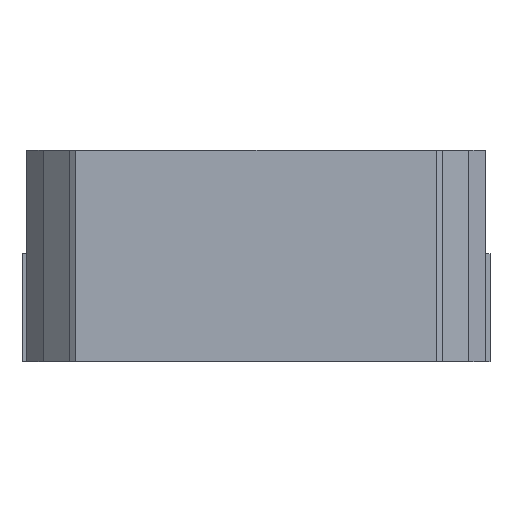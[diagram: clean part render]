
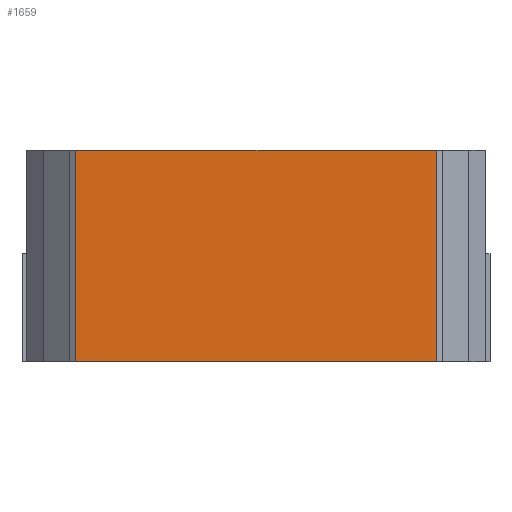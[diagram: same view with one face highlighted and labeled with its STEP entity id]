
A CAD part, front view. The second image highlights one B-rep face of the part: STEP entity #1659.
In plain terms, the highlighted planar face has unit normal (0, -1, 0).
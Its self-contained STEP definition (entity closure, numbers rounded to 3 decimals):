
#63 = PLANE('',#64);
#64 = AXIS2_PLACEMENT_3D('',#65,#66,#67);
#65 = CARTESIAN_POINT('',(-3.25,-3.25,3.));
#66 = DIRECTION('',(0.,0.,1.));
#67 = DIRECTION('',(1.,0.,0.));
#117 = PLANE('',#118);
#118 = AXIS2_PLACEMENT_3D('',#119,#120,#121);
#119 = CARTESIAN_POINT('',(-3.25,-3.25,0.));
#120 = DIRECTION('',(0.,0.,1.));
#121 = DIRECTION('',(1.,0.,0.));
#303 = VERTEX_POINT('',#304);
#304 = CARTESIAN_POINT('',(-2.55,-3.25,3.));
#317 = PLANE('',#318);
#318 = AXIS2_PLACEMENT_3D('',#319,#320,#321);
#319 = CARTESIAN_POINT('',(-2.637,-3.187,-1.));
#320 = DIRECTION('',(0.588,0.809,0.));
#321 = DIRECTION('',(0.809,-0.588,0.));
#328 = EDGE_CURVE('',#303,#329,#331,.T.);
#329 = VERTEX_POINT('',#330);
#330 = CARTESIAN_POINT('',(2.55,-3.25,3.));
#331 = SURFACE_CURVE('',#332,(#336,#343),.PCURVE_S1.);
#332 = LINE('',#333,#334);
#333 = CARTESIAN_POINT('',(-3.25,-3.25,3.));
#334 = VECTOR('',#335,1.);
#335 = DIRECTION('',(1.,0.,0.));
#336 = PCURVE('',#63,#337);
#337 = DEFINITIONAL_REPRESENTATION('',(#338),#342);
#338 = LINE('',#339,#340);
#339 = CARTESIAN_POINT('',(0.,0.));
#340 = VECTOR('',#341,1.);
#341 = DIRECTION('',(1.,0.));
#342 = ( GEOMETRIC_REPRESENTATION_CONTEXT(2) 
PARAMETRIC_REPRESENTATION_CONTEXT() REPRESENTATION_CONTEXT('2D SPACE',''
  ) );
#343 = PCURVE('',#344,#349);
#344 = PLANE('',#345);
#345 = AXIS2_PLACEMENT_3D('',#346,#347,#348);
#346 = CARTESIAN_POINT('',(-3.25,-3.25,0.));
#347 = DIRECTION('',(0.,1.,0.));
#348 = DIRECTION('',(0.,0.,1.));
#349 = DEFINITIONAL_REPRESENTATION('',(#350),#354);
#350 = LINE('',#351,#352);
#351 = CARTESIAN_POINT('',(3.,0.));
#352 = VECTOR('',#353,1.);
#353 = DIRECTION('',(0.,1.));
#354 = ( GEOMETRIC_REPRESENTATION_CONTEXT(2) 
PARAMETRIC_REPRESENTATION_CONTEXT() REPRESENTATION_CONTEXT('2D SPACE',''
  ) );
#371 = PLANE('',#372);
#372 = AXIS2_PLACEMENT_3D('',#373,#374,#375);
#373 = CARTESIAN_POINT('',(2.216,-3.493,-1.));
#374 = DIRECTION('',(-0.588,0.809,0.));
#375 = DIRECTION('',(0.809,0.588,0.));
#733 = VERTEX_POINT('',#734);
#734 = CARTESIAN_POINT('',(-2.55,-3.25,0.));
#753 = EDGE_CURVE('',#733,#754,#756,.T.);
#754 = VERTEX_POINT('',#755);
#755 = CARTESIAN_POINT('',(2.55,-3.25,0.));
#756 = SURFACE_CURVE('',#757,(#761,#768),.PCURVE_S1.);
#757 = LINE('',#758,#759);
#758 = CARTESIAN_POINT('',(-3.25,-3.25,0.));
#759 = VECTOR('',#760,1.);
#760 = DIRECTION('',(1.,0.,0.));
#761 = PCURVE('',#117,#762);
#762 = DEFINITIONAL_REPRESENTATION('',(#763),#767);
#763 = LINE('',#764,#765);
#764 = CARTESIAN_POINT('',(0.,0.));
#765 = VECTOR('',#766,1.);
#766 = DIRECTION('',(1.,0.));
#767 = ( GEOMETRIC_REPRESENTATION_CONTEXT(2) 
PARAMETRIC_REPRESENTATION_CONTEXT() REPRESENTATION_CONTEXT('2D SPACE',''
  ) );
#768 = PCURVE('',#344,#769);
#769 = DEFINITIONAL_REPRESENTATION('',(#770),#774);
#770 = LINE('',#771,#772);
#771 = CARTESIAN_POINT('',(0.,0.));
#772 = VECTOR('',#773,1.);
#773 = DIRECTION('',(0.,1.));
#774 = ( GEOMETRIC_REPRESENTATION_CONTEXT(2) 
PARAMETRIC_REPRESENTATION_CONTEXT() REPRESENTATION_CONTEXT('2D SPACE',''
  ) );
#1640 = EDGE_CURVE('',#754,#329,#1641,.T.);
#1641 = SURFACE_CURVE('',#1642,(#1646,#1652),.PCURVE_S1.);
#1642 = LINE('',#1643,#1644);
#1643 = CARTESIAN_POINT('',(2.55,-3.25,-0.5));
#1644 = VECTOR('',#1645,1.);
#1645 = DIRECTION('',(0.,-0.,1.));
#1646 = PCURVE('',#371,#1647);
#1647 = DEFINITIONAL_REPRESENTATION('',(#1648),#1651);
#1648 = B_SPLINE_CURVE_WITH_KNOTS('',1,(#1649,#1650),.UNSPECIFIED.,.F.,
  .F.,(2,2),(0.5,3.5),.PIECEWISE_BEZIER_KNOTS.);
#1649 = CARTESIAN_POINT('',(0.413,-1.));
#1650 = CARTESIAN_POINT('',(0.413,-4.));
#1651 = ( GEOMETRIC_REPRESENTATION_CONTEXT(2) 
PARAMETRIC_REPRESENTATION_CONTEXT() REPRESENTATION_CONTEXT('2D SPACE',''
  ) );
#1652 = PCURVE('',#344,#1653);
#1653 = DEFINITIONAL_REPRESENTATION('',(#1654),#1657);
#1654 = B_SPLINE_CURVE_WITH_KNOTS('',1,(#1655,#1656),.UNSPECIFIED.,.F.,
  .F.,(2,2),(0.5,3.5),.PIECEWISE_BEZIER_KNOTS.);
#1655 = CARTESIAN_POINT('',(0.,5.8));
#1656 = CARTESIAN_POINT('',(3.,5.8));
#1657 = ( GEOMETRIC_REPRESENTATION_CONTEXT(2) 
PARAMETRIC_REPRESENTATION_CONTEXT() REPRESENTATION_CONTEXT('2D SPACE',''
  ) );
#1659 = ADVANCED_FACE('',(#1660),#344,.F.);
#1660 = FACE_BOUND('',#1661,.F.);
#1661 = EDGE_LOOP('',(#1662,#1663,#1682,#1683));
#1662 = ORIENTED_EDGE('',*,*,#753,.F.);
#1663 = ORIENTED_EDGE('',*,*,#1664,.F.);
#1664 = EDGE_CURVE('',#303,#733,#1665,.T.);
#1665 = SURFACE_CURVE('',#1666,(#1670,#1676),.PCURVE_S1.);
#1666 = LINE('',#1667,#1668);
#1667 = CARTESIAN_POINT('',(-2.55,-3.25,-0.5));
#1668 = VECTOR('',#1669,1.);
#1669 = DIRECTION('',(0.,0.,-1.));
#1670 = PCURVE('',#344,#1671);
#1671 = DEFINITIONAL_REPRESENTATION('',(#1672),#1675);
#1672 = B_SPLINE_CURVE_WITH_KNOTS('',1,(#1673,#1674),.UNSPECIFIED.,.F.,
  .F.,(2,2),(-3.5,-0.5),.PIECEWISE_BEZIER_KNOTS.);
#1673 = CARTESIAN_POINT('',(3.,0.7));
#1674 = CARTESIAN_POINT('',(0.,0.7));
#1675 = ( GEOMETRIC_REPRESENTATION_CONTEXT(2) 
PARAMETRIC_REPRESENTATION_CONTEXT() REPRESENTATION_CONTEXT('2D SPACE',''
  ) );
#1676 = PCURVE('',#317,#1677);
#1677 = DEFINITIONAL_REPRESENTATION('',(#1678),#1681);
#1678 = B_SPLINE_CURVE_WITH_KNOTS('',1,(#1679,#1680),.UNSPECIFIED.,.F.,
  .F.,(2,2),(-3.5,-0.5),.PIECEWISE_BEZIER_KNOTS.);
#1679 = CARTESIAN_POINT('',(0.107,-4.));
#1680 = CARTESIAN_POINT('',(0.107,-1.));
#1681 = ( GEOMETRIC_REPRESENTATION_CONTEXT(2) 
PARAMETRIC_REPRESENTATION_CONTEXT() REPRESENTATION_CONTEXT('2D SPACE',''
  ) );
#1682 = ORIENTED_EDGE('',*,*,#328,.T.);
#1683 = ORIENTED_EDGE('',*,*,#1640,.F.);
